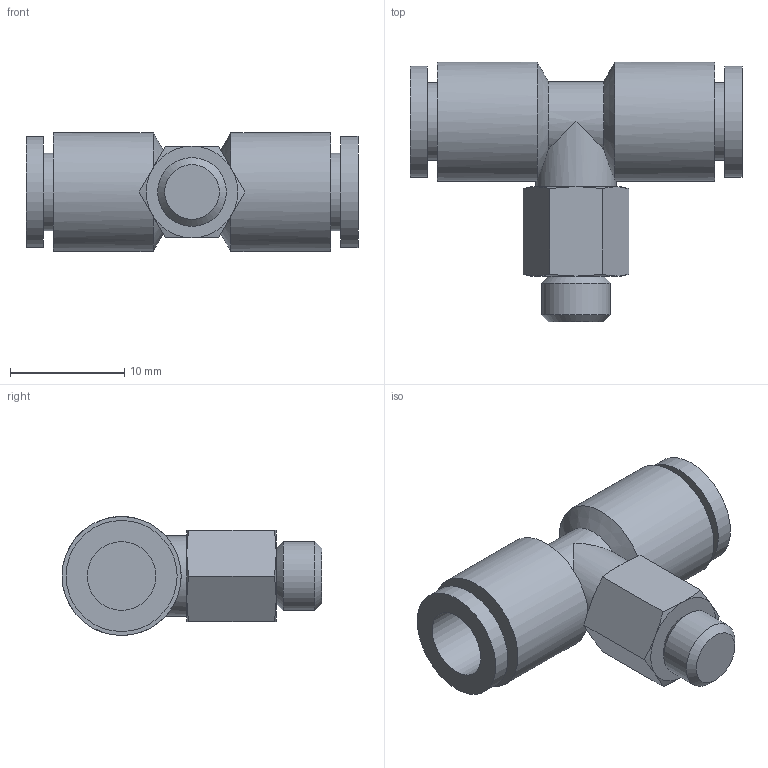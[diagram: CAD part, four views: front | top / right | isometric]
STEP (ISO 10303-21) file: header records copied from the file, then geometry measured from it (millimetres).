
FILE_DESCRIPTION(/* description */ ('STEP AP214'),/* implementation_level */ '2;1');
FILE_NAME(/* name */ 'KQ2T06-M6A',/* time_stamp */ '2024-10-24T14:00:32+02:00',/* author */ ('License CC BY-ND 4.0'),/* organization */ ('CADENAS'),/* preprocessor_version */ 'ST-DEVELOPER v19.3',/* originating_system */ 'PARTsolutions',/* authorisation */ ' ');
FILE_SCHEMA (('AUTOMOTIVE_DESIGN {1 0 10303 214 3 1 1}'));
Length unit declared in the file: millimetre
Products named in the file (1): KQ2T06-M6A
Bounding box: 29 x 22.7 x 10.4 mm (x, y, z)
Volume: 1954.8 mm3; surface area: 2106.4 mm2
Topology: 1 solids, 1 shells, 44 faces, 89 edges, 55 vertices
Faces by surface type: plane 17, cone 16, cylinder 11
Full cylindrical faces by diameter (mm): 6 x3, 6.8 x2, 7 x1, 9.7 x2, 10.4 x2
Entity records: 1134 total; most frequent: CARTESIAN_POINT 267, DIRECTION 174, ORIENTED_EDGE 150, AXIS2_PLACEMENT_3D 84, EDGE_CURVE 75, EDGE_LOOP 64, FACE_BOUND 64, VERTEX_POINT 53
